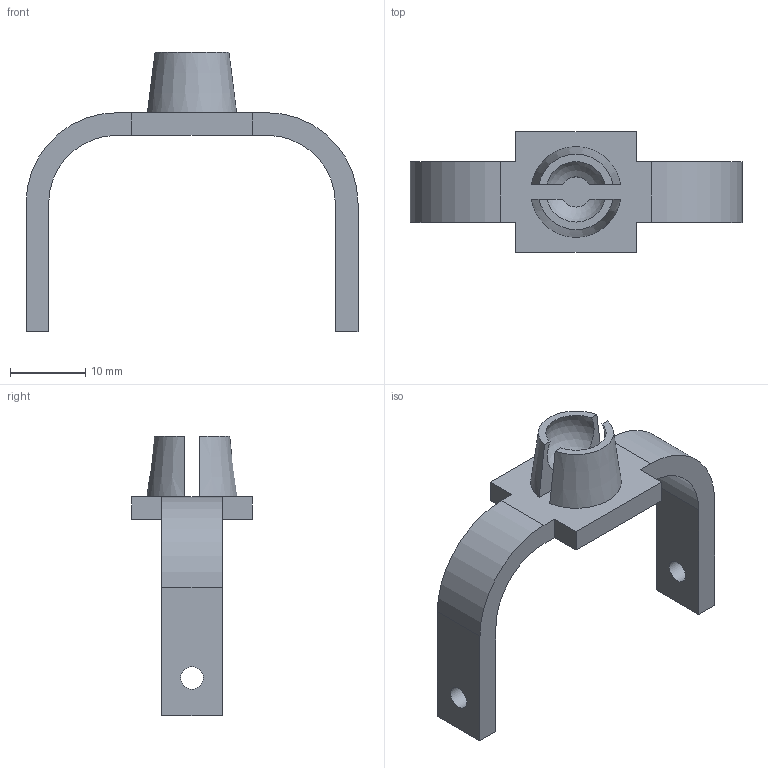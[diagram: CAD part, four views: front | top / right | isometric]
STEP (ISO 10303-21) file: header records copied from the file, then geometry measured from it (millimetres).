
FILE_DESCRIPTION(/* description */ ('Держатель'),/* implementation_level */ '2;1');
FILE_NAME(/* name */ 'D:\ \Работа\JuniorSkills\2018\ОтборочныйЗадание\Микроскоп\STEP\Держатель.stp',/* time_stamp */ '2017-11-09T06:43:45+07:00',/* author */ ('Andrey'),/* organization */ (''),/* preprocessor_version */ 'ST-DEVELOPER v15.6',/* originating_system */ 'Autodesk Inventor 2015',/* authorisation */ '');
FILE_SCHEMA (('AUTOMOTIVE_DESIGN { 1 0 10303 214 3 1 1 }'));
Length unit declared in the file: millimetre
Products named in the file (1): Держатель
Bounding box: 44 x 16 x 37 mm (x, y, z)
Volume: 2793.2 mm3; surface area: 2705.6 mm2
Topology: 1 solids, 1 shells, 36 faces, 96 edges, 64 vertices
Faces by surface type: plane 24, cylinder 8, cone 2, sphere 2
Full cylindrical faces by diameter (mm): 3 x2
Entity records: 1144 total; most frequent: CARTESIAN_POINT 203, DIRECTION 190, ORIENTED_EDGE 188, EDGE_CURVE 94, LINE 64, VECTOR 64, VERTEX_POINT 64, AXIS2_PLACEMENT_3D 63
